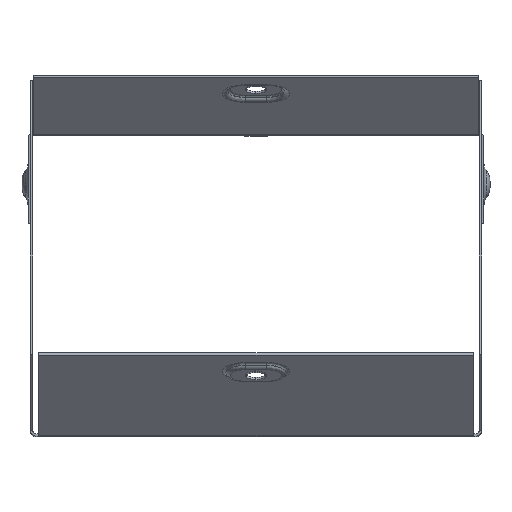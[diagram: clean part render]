
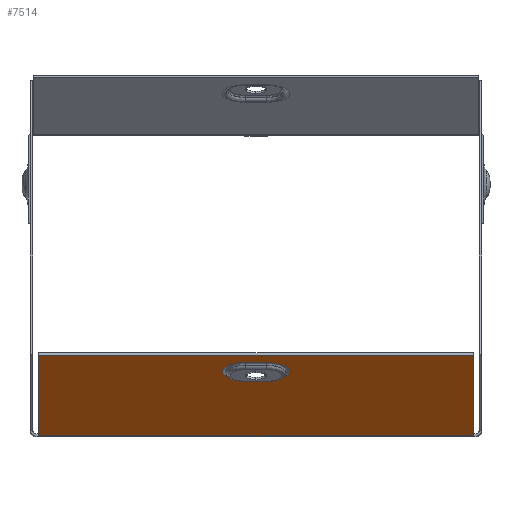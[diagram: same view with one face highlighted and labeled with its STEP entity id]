
A CAD part, top view. The second image highlights one B-rep face of the part: STEP entity #7514.
In plain terms, the highlighted planar face has unit normal (0, -0.924, 0.383).
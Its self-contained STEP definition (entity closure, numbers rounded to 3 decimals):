
#5 = CARTESIAN_POINT ( 'NONE',  ( 3.5, -76.451, 126.86 ) ) ;
#74 = AXIS2_PLACEMENT_3D ( 'NONE', #8311, #1791, #7312 ) ;
#211 = AXIS2_PLACEMENT_3D ( 'NONE', #9847, #8627, #1016 ) ;
#296 = EDGE_CURVE ( 'NONE', #6931, #4079, #4693, .T. ) ;
#1016 = DIRECTION ( 'NONE',  ( 0., 0.383, 0.924 ) ) ;
#1286 = VECTOR ( 'NONE', #1532, 1000. ) ;
#1532 = DIRECTION ( 'NONE',  ( -1., 0., 0. ) ) ;
#1700 = ORIENTED_EDGE ( 'NONE', *, *, #11158, .T. ) ;
#1791 = DIRECTION ( 'NONE',  ( 0., 0.924, -0.383 ) ) ;
#1994 = VERTEX_POINT ( 'NONE', #10046 ) ;
#2068 = CARTESIAN_POINT ( 'NONE',  ( -72.299, -100.8, 68.075 ) ) ;
#2144 = LINE ( 'NONE', #12408, #1286 ) ;
#2325 = ORIENTED_EDGE ( 'NONE', *, *, #11610, .F. ) ;
#2458 = LINE ( 'NONE', #8338, #9460 ) ;
#2495 = ORIENTED_EDGE ( 'NONE', *, *, #5128, .T. ) ;
#3383 = AXIS2_PLACEMENT_3D ( 'NONE', #12856, #6326, #6841 ) ;
#3393 = ORIENTED_EDGE ( 'NONE', *, *, #12928, .T. ) ;
#3877 = DIRECTION ( 'NONE',  ( -1., 0., 0. ) ) ;
#4079 = VERTEX_POINT ( 'NONE', #11239 ) ;
#4092 = DIRECTION ( 'NONE',  ( 0., -0.383, -0.924 ) ) ;
#4129 = LINE ( 'NONE', #2068, #9410 ) ;
#4441 = CARTESIAN_POINT ( 'NONE',  ( 72.299, -100.663, 68.406 ) ) ;
#4621 = EDGE_LOOP ( 'NONE', ( #13880, #13723, #1700, #3393 ) ) ;
#4693 = CIRCLE ( 'NONE', #211, 7.598 ) ;
#4804 = FACE_OUTER_BOUND ( 'NONE', #5449, .T. ) ;
#5128 = EDGE_CURVE ( 'NONE', #5317, #9753, #2144, .T. ) ;
#5201 = VECTOR ( 'NONE', #8210, 1000. ) ;
#5317 = VERTEX_POINT ( 'NONE', #8027 ) ;
#5411 = CARTESIAN_POINT ( 'NONE',  ( -72.299, -74.001, 132.774 ) ) ;
#5449 = EDGE_LOOP ( 'NONE', ( #13738, #2325, #13561, #2495 ) ) ;
#5896 = DIRECTION ( 'NONE',  ( 0., 0.383, 0.924 ) ) ;
#5906 = CARTESIAN_POINT ( 'NONE',  ( 73.2, -100.663, 68.406 ) ) ;
#6326 = DIRECTION ( 'NONE',  ( 0., 0.924, -0.383 ) ) ;
#6841 = DIRECTION ( 'NONE',  ( 0., 0.383, 0.924 ) ) ;
#6931 = VERTEX_POINT ( 'NONE', #5 ) ;
#7312 = DIRECTION ( 'NONE',  ( 0., 0.383, 0.924 ) ) ;
#7360 = CARTESIAN_POINT ( 'NONE',  ( -3.5, -76.451, 126.86 ) ) ;
#7514 = ADVANCED_FACE ( 'NONE', ( #9250, #4804 ), #13906, .F. ) ;
#7842 = LINE ( 'NONE', #8021, #11452 ) ;
#8021 = CARTESIAN_POINT ( 'NONE',  ( 72.299, -100.864, 67.921 ) ) ;
#8027 = CARTESIAN_POINT ( 'NONE',  ( 72.299, -74.001, 132.774 ) ) ;
#8210 = DIRECTION ( 'NONE',  ( 1., 0., 0. ) ) ;
#8239 = VERTEX_POINT ( 'NONE', #7360 ) ;
#8311 = CARTESIAN_POINT ( 'NONE',  ( -3.5, -79.358, 119.84 ) ) ;
#8338 = CARTESIAN_POINT ( 'NONE',  ( 3.5, -82.266, 112.82 ) ) ;
#8374 = DIRECTION ( 'NONE',  ( -1., 0., 0. ) ) ;
#8496 = EDGE_CURVE ( 'NONE', #8239, #6931, #13892, .T. ) ;
#8534 = CIRCLE ( 'NONE', #74, 7.598 ) ;
#8627 = DIRECTION ( 'NONE',  ( 0., 0.924, -0.383 ) ) ;
#8715 = CARTESIAN_POINT ( 'NONE',  ( -72.299, -100.663, 68.406 ) ) ;
#9250 = FACE_BOUND ( 'NONE', #4621, .T. ) ;
#9272 = LINE ( 'NONE', #5906, #10639 ) ;
#9410 = VECTOR ( 'NONE', #4092, 1000. ) ;
#9460 = VECTOR ( 'NONE', #8374, 1000. ) ;
#9753 = VERTEX_POINT ( 'NONE', #5411 ) ;
#9847 = CARTESIAN_POINT ( 'NONE',  ( 3.5, -79.358, 119.84 ) ) ;
#10046 = CARTESIAN_POINT ( 'NONE',  ( -3.5, -82.266, 112.82 ) ) ;
#10639 = VECTOR ( 'NONE', #3877, 1000. ) ;
#10800 = VERTEX_POINT ( 'NONE', #8715 ) ;
#11158 = EDGE_CURVE ( 'NONE', #4079, #1994, #2458, .T. ) ;
#11239 = CARTESIAN_POINT ( 'NONE',  ( 3.5, -82.266, 112.82 ) ) ;
#11353 = VERTEX_POINT ( 'NONE', #4441 ) ;
#11452 = VECTOR ( 'NONE', #5896, 1000. ) ;
#11610 = EDGE_CURVE ( 'NONE', #11353, #10800, #9272, .T. ) ;
#12408 = CARTESIAN_POINT ( 'NONE',  ( 73.2, -74.001, 132.774 ) ) ;
#12769 = EDGE_CURVE ( 'NONE', #11353, #5317, #7842, .T. ) ;
#12856 = CARTESIAN_POINT ( 'NONE',  ( 73.2, -100.8, 68.075 ) ) ;
#12928 = EDGE_CURVE ( 'NONE', #1994, #8239, #8534, .T. ) ;
#13080 = EDGE_CURVE ( 'NONE', #9753, #10800, #4129, .T. ) ;
#13561 = ORIENTED_EDGE ( 'NONE', *, *, #12769, .T. ) ;
#13586 = CARTESIAN_POINT ( 'NONE',  ( 3.5, -76.451, 126.86 ) ) ;
#13723 = ORIENTED_EDGE ( 'NONE', *, *, #296, .T. ) ;
#13738 = ORIENTED_EDGE ( 'NONE', *, *, #13080, .T. ) ;
#13880 = ORIENTED_EDGE ( 'NONE', *, *, #8496, .T. ) ;
#13892 = LINE ( 'NONE', #13586, #5201 ) ;
#13906 = PLANE ( 'NONE',  #3383 ) ;
